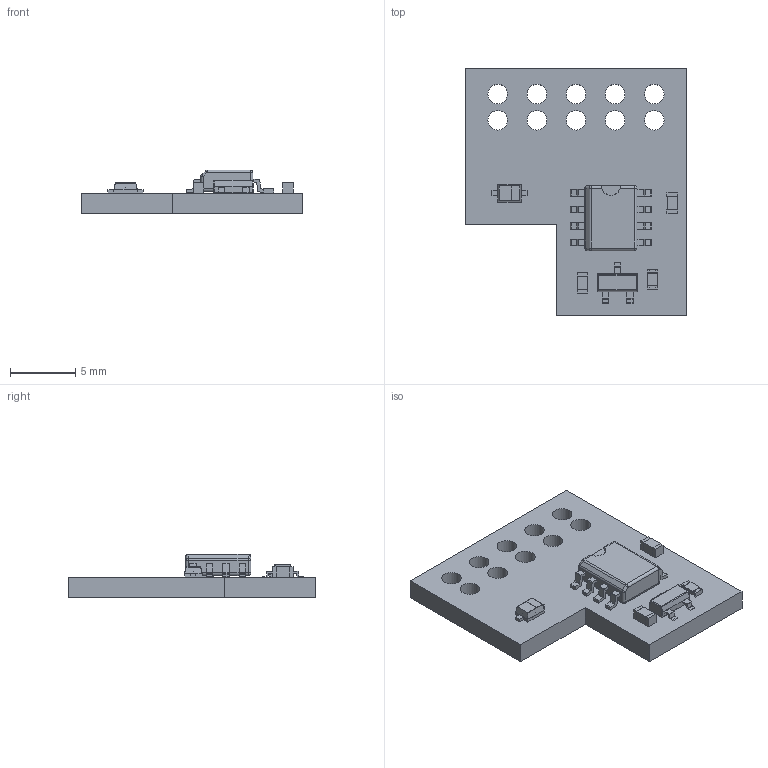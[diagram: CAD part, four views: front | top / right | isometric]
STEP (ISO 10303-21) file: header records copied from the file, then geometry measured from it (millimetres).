
FILE_DESCRIPTION(('Open CASCADE Model'),'2;1');
FILE_NAME('Open CASCADE Shape Model','2013-05-16T09:37:51',('Author'),( 'Open CASCADE'),'Open CASCADE STEP processor 6.2','Open CASCADE 6.2' ,'Unknown');
FILE_SCHEMA(('AUTOMOTIVE_DESIGN { 1 0 10303 214 1 1 1 1 }'));
Length unit declared in the file: millimetre
Products named in the file (35): PCB; Board; U2; SO8; U1; SOT95P240X110-3N; R1; RESC0603X60N; D1; SW3dPS-SOD-323F; SW3dPS-SOD-323F_Board5; SW3dPS-SOD-323F_Free-Models3; SW3dPS-SOD-323F_BODYSOD323F_3; SW3dPS-SOD-323F_Free-Models4; SW3dPS-SOD-323F_358340561; SW3dPS-SOD-323F_Extruded9; SW3dPS-SOD-323F_Board4; SW3dPS-SOD-323F_358337361; SW3dPS-SOD-323F_Extruded8; SW3dPS-SOD-323F_BODYSOD323F_4; SW3dPS-SOD-323F_Free-Models5; SW3dPS-SOD-323F_358339793; SW3dPS-SOD-323F_Extruded10; SW3dPS-SOD-323F_Board3; SW3dPS-SOD-323F_358338001; SW3dPS-SOD-323F_Extruded7; SW3dPS-SOD-323F_358337489; SW3dPS-SOD-323F_Extruded6; SW3dPS-SOD-323F_358337745; SW3dPS-SOD-323F_Extruded11; C2; CAP_0603; User_Library-CAP_0603_CAP_0603_Lead_1; User_Library-CAP_0603_CAP_0603_Body_1; C1
Assembly tree (39 placements, depth 8):
  PCB
    Board
    U2
      SO8
    U1
      SOT95P240X110-3N
    R1
      RESC0603X60N
    D1
      SW3dPS-SOD-323F
        SW3dPS-SOD-323F_Board5
        SW3dPS-SOD-323F_Free-Models3
          SW3dPS-SOD-323F_BODYSOD323F_3  x2
            SW3dPS-SOD-323F_Free-Models4
              SW3dPS-SOD-323F_358340561
                SW3dPS-SOD-323F_Extruded9
            SW3dPS-SOD-323F_Board4
          SW3dPS-SOD-323F_358337361  x2
            SW3dPS-SOD-323F_Extruded8
          SW3dPS-SOD-323F_BODYSOD323F_4  x2
            SW3dPS-SOD-323F_Free-Models5
              SW3dPS-SOD-323F_358339793
                SW3dPS-SOD-323F_Extruded10
            SW3dPS-SOD-323F_Board3
          SW3dPS-SOD-323F_358338001
            SW3dPS-SOD-323F_Extruded7
          SW3dPS-SOD-323F_358337489
            SW3dPS-SOD-323F_Extruded6
          SW3dPS-SOD-323F_358337745
            SW3dPS-SOD-323F_Extruded11
    C2
      CAP_0603
        User_Library-CAP_0603_CAP_0603_Lead_1  x2
        User_Library-CAP_0603_CAP_0603_Body_1
    C1
      CAP_0603
        User_Library-CAP_0603_CAP_0603_Lead_1  x2
        User_Library-CAP_0603_CAP_0603_Body_1
Bounding box: 17 x 19 x 3.37 mm (x, y, z)
Volume: 449.3 mm3; surface area: 849.7 mm2
Topology: 24 solids, 24 shells, 411 faces, 1009 edges, 646 vertices
Faces by surface type: plane 294, cylinder 99, sphere 18
Full cylindrical faces by diameter (mm): 1.5 x10
Entity records: 26596 total; most frequent: CARTESIAN_POINT 7762, DIRECTION 3154, LINE 1893, VECTOR 1893, ORIENTED_EDGE 1778, PCURVE 1778, DEFINITIONAL_REPRESENTATION 1778, EDGE_CURVE 889
